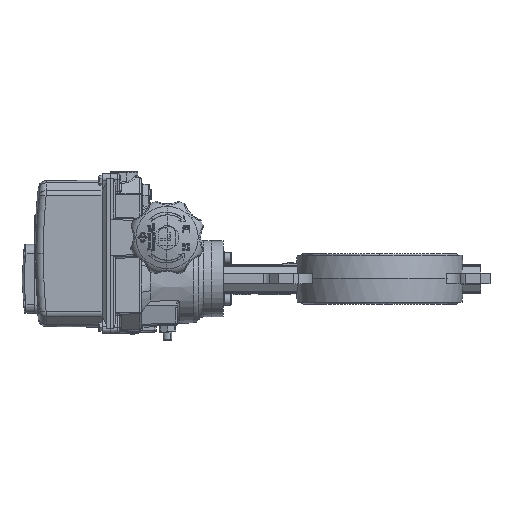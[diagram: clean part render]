
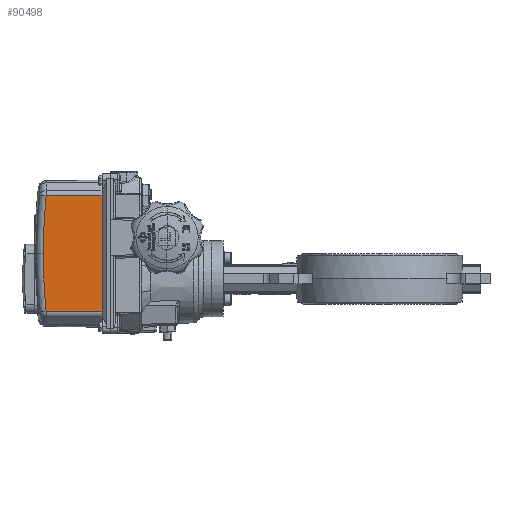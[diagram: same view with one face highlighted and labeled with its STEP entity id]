
A CAD part, left-side view. The second image highlights one B-rep face of the part: STEP entity #90498.
In plain terms, the highlighted planar face has unit normal (-1, 0.013, 0).
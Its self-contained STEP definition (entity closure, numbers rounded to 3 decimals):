
#39 = DIRECTION ( 'NONE',  ( -1., 0.013, 0. ) ) ;
#3527 = DIRECTION ( 'NONE',  ( 0.013, 1., -0.006 ) ) ;
#4445 = AXIS2_PLACEMENT_3D ( 'NONE', #14263, #39, #39394 ) ;
#4786 = DIRECTION ( 'NONE',  ( -0.013, -1., -0.006 ) ) ;
#8086 = CARTESIAN_POINT ( 'NONE',  ( -57.279, 329.7, -39.032 ) ) ;
#9277 = VERTEX_POINT ( 'NONE', #29824 ) ;
#9907 = VECTOR ( 'NONE', #50772, 1000. ) ;
#11134 = AXIS2_PLACEMENT_3D ( 'NONE', #30547, #102794, #14236 ) ;
#13713 = EDGE_CURVE ( 'NONE', #99023, #94700, #73888, .T. ) ;
#14236 = DIRECTION ( 'NONE',  ( 0.013, 1., 0. ) ) ;
#14263 = CARTESIAN_POINT ( 'NONE',  ( -57.412, 319.734, -41.573 ) ) ;
#14850 = ORIENTED_EDGE ( 'NONE', *, *, #34222, .T. ) ;
#23525 = VECTOR ( 'NONE', #3527, 1000. ) ;
#23993 = EDGE_CURVE ( 'NONE', #94700, #52012, #65911, .T. ) ;
#29517 = PLANE ( 'NONE',  #4445 ) ;
#29824 = CARTESIAN_POINT ( 'NONE',  ( -57.279, 329.7, 98.858 ) ) ;
#30547 = CARTESIAN_POINT ( 'NONE',  ( -65.589, -289.385, 29.913 ) ) ;
#31809 = LINE ( 'NONE', #93773, #91399 ) ;
#31972 = ORIENTED_EDGE ( 'NONE', *, *, #65246, .T. ) ;
#32475 = FACE_OUTER_BOUND ( 'NONE', #102908, .T. ) ;
#34222 = EDGE_CURVE ( 'NONE', #52012, #104786, #31809, .T. ) ;
#35134 = EDGE_CURVE ( 'NONE', #104786, #9277, #35246, .T. ) ;
#35246 = LINE ( 'NONE', #74909, #9907 ) ;
#36516 = CARTESIAN_POINT ( 'NONE',  ( -56.388, 396.051, -38.663 ) ) ;
#36946 = DIRECTION ( 'NONE',  ( 0.013, 1., 0. ) ) ;
#39394 = DIRECTION ( 'NONE',  ( 0.013, 1., 0. ) ) ;
#46374 = LINE ( 'NONE', #92899, #23525 ) ;
#50772 = DIRECTION ( 'NONE',  ( 0., 0., 1. ) ) ;
#52012 = VERTEX_POINT ( 'NONE', #36516 ) ;
#59838 = ORIENTED_EDGE ( 'NONE', *, *, #23993, .T. ) ;
#61147 = CARTESIAN_POINT ( 'NONE',  ( -56.342, 399.473, 29.913 ) ) ;
#65246 = EDGE_CURVE ( 'NONE', #9277, #99023, #46374, .T. ) ;
#65911 = CIRCLE ( 'NONE', #11134, 688.92 ) ;
#70403 = AXIS2_PLACEMENT_3D ( 'NONE', #94384, #77703, #36946 ) ;
#73888 = CIRCLE ( 'NONE', #70403, 688.92 ) ;
#74909 = CARTESIAN_POINT ( 'NONE',  ( -57.279, 329.7, -41.573 ) ) ;
#77703 = DIRECTION ( 'NONE',  ( -1., 0.013, 0. ) ) ;
#85620 = CARTESIAN_POINT ( 'NONE',  ( -56.388, 396.051, 98.489 ) ) ;
#88213 = ORIENTED_EDGE ( 'NONE', *, *, #35134, .T. ) ;
#90498 = ADVANCED_FACE ( 'NONE', ( #32475 ), #29517, .T. ) ;
#91399 = VECTOR ( 'NONE', #4786, 1000. ) ;
#92899 = CARTESIAN_POINT ( 'NONE',  ( -57.411, 319.826, 98.912 ) ) ;
#93773 = CARTESIAN_POINT ( 'NONE',  ( -57.413, 319.72, -39.088 ) ) ;
#94384 = CARTESIAN_POINT ( 'NONE',  ( -65.589, -289.385, 29.913 ) ) ;
#94700 = VERTEX_POINT ( 'NONE', #61147 ) ;
#98339 = ORIENTED_EDGE ( 'NONE', *, *, #13713, .T. ) ;
#99023 = VERTEX_POINT ( 'NONE', #85620 ) ;
#102794 = DIRECTION ( 'NONE',  ( -1., 0.013, 0. ) ) ;
#102908 = EDGE_LOOP ( 'NONE', ( #14850, #88213, #31972, #98339, #59838 ) ) ;
#104786 = VERTEX_POINT ( 'NONE', #8086 ) ;
